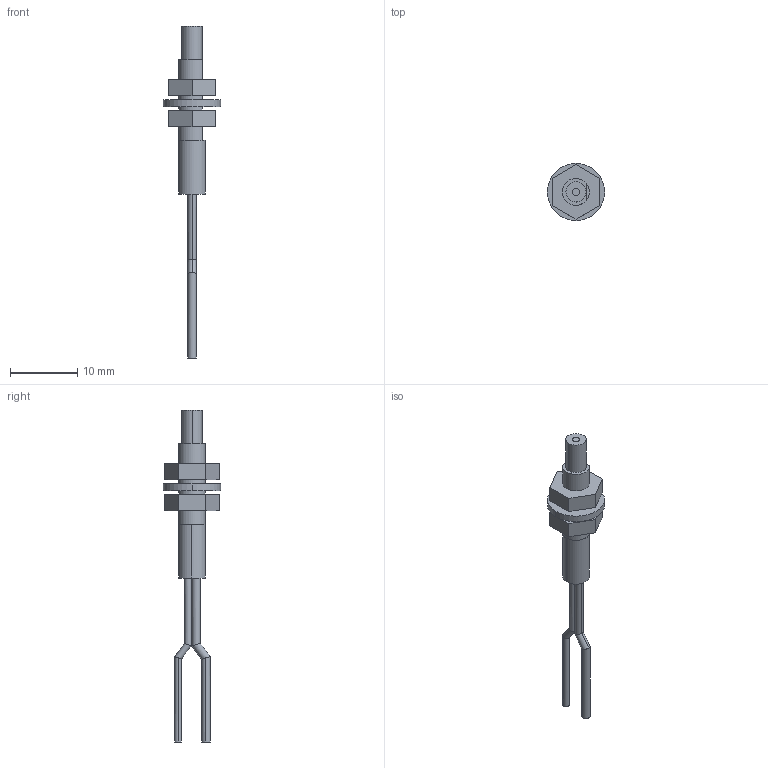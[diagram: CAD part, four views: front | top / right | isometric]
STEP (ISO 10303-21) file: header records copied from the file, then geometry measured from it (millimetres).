
FILE_DESCRIPTION (( 'STEP AP203' ), '1' );
FILE_NAME ('FD-WG4.STEP', '2005-11-09T08:00:54', ( '' ), ( '' ), 'SwSTEP 2.0', 'SolidWorks 2004073', '' );
FILE_SCHEMA (( 'CONFIG_CONTROL_DESIGN' ));
Length unit declared in the file: millimetre
Products named in the file (1): FD-WG4
Bounding box: 8.5 x 8.5 x 49.4 mm (x, y, z)
Volume: 531 mm3; surface area: 1001.3 mm2
Topology: 5 solids, 5 shells, 54 faces, 116 edges, 76 vertices
Faces by surface type: cylinder 27, plane 27
Entity records: 1547 total; most frequent: CARTESIAN_POINT 283, DIRECTION 252, ORIENTED_EDGE 232, EDGE_CURVE 116, AXIS2_PLACEMENT_3D 93, VERTEX_POINT 76, LINE 66, VECTOR 66
